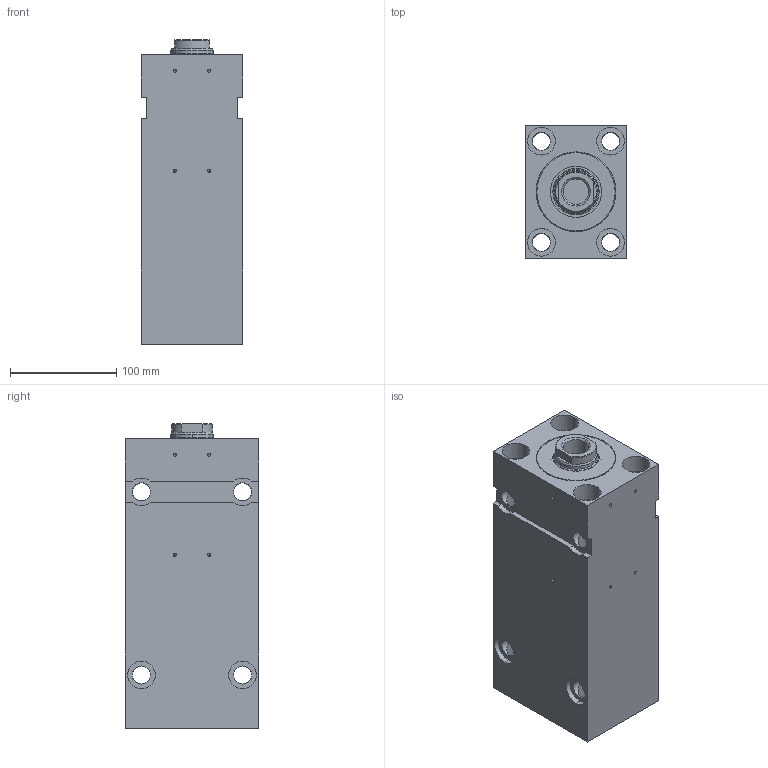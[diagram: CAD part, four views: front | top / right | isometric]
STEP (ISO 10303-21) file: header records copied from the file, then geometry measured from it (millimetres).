
FILE_DESCRIPTION (( 'STEP AP203' ), '1' );
FILE_NAME ('BZ_320.63_40.78.201.160 PP.KBC50__DH_0_.STEP', '2022-05-10T10:34:55', ( '' ), ( '' ), 'SwSTEP 2.0', 'SolidWorks 2020', '' );
FILE_SCHEMA (( 'CONFIG_CONTROL_DESIGN' ));
Length unit declared in the file: millimetre
Products named in the file (7): _Dichtungssatz f. BZ_RZ_FZ.63_40.xx.201.160 Artikelnr._ 053077(0)^BZ_320.63_40.78.201.160 PP.KBC50__DH_0_(2)_BZ_320.63_40.78.201.160 PP.KBC50__DH_0_; BZ_320.63_40.78.201.160 PP.KBC50__DH_0_; _Verschraubung komplett mit Dichtung f. BZ_RZ_FZ.63_40.201, Art.-Nr._ 042987(201)^BZ_320.63_40.78.201.160 PP.KBC50__DH_0_(2)_BZ_320.63_40.78.201.160 PP.KBC50__DH_0_; _Verschraubung hinten komplett mit Dichtung f. BZ500.63_40 LLL^BZ_320.63_40.78.201.160 PP.KBC50__DH_0_(2)_BZ_320.63_40.78.201.160 PP.KBC50__DH_0_; _Gehaeuse f. BZ320.63_40.Fehler in IDBF.201.160Fehler in IDNT00(1350frei278000))10^BZ_320.63_40.78.201.160 PP.KBC50__DH_0_(2)_BZ_320.63_40.78.201.160 PP.KBC50__DH_0_; BZ_320.63_40.78.201.160 PP.KBC50__DH_0_(2)^BZ_320.63_40.78.201.160 PP.KBC50__DH_0_; _Kolbenstange komplett f. BZ_RZ_FZ.63_40.xx.201.160(0_11 1 27 3 0 0 14 40 0 0 0)0^BZ_320.63_40.78.201.160 PP.KBC50__DH_0_(2)_BZ_320.63_40.78.201.160 PP.KBC50__DH_0_
Assembly tree (6 placements, depth 3):
  BZ_320.63_40.78.201.160 PP.KBC50__DH_0_
    BZ_320.63_40.78.201.160 PP.KBC50__DH_0_(2)^BZ_320.63_40.78.201.160 PP.KBC50__DH_0_
      _Gehaeuse f. BZ320.63_40.Fehler in IDBF.201.160Fehler in IDNT00(1350frei278000))10^BZ_320.63_40.78.201.160 PP.KBC50__DH_0_(2)_BZ_320.63_40.78.201.160 PP.KBC50__DH_0_
      _Verschraubung hinten komplett mit Dichtung f. BZ500.63_40 LLL^BZ_320.63_40.78.201.160 PP.KBC50__DH_0_(2)_BZ_320.63_40.78.201.160 PP.KBC50__DH_0_
      _Verschraubung komplett mit Dichtung f. BZ_RZ_FZ.63_40.201, Art.-Nr._ 042987(201)^BZ_320.63_40.78.201.160 PP.KBC50__DH_0_(2)_BZ_320.63_40.78.201.160 PP.KBC50__DH_0_
      _Dichtungssatz f. BZ_RZ_FZ.63_40.xx.201.160 Artikelnr._ 053077(0)^BZ_320.63_40.78.201.160 PP.KBC50__DH_0_(2)_BZ_320.63_40.78.201.160 PP.KBC50__DH_0_
      _Kolbenstange komplett f. BZ_RZ_FZ.63_40.xx.201.160(0_11 1 27 3 0 0 14 40 0 0 0)0^BZ_320.63_40.78.201.160 PP.KBC50__DH_0_(2)_BZ_320.63_40.78.201.160 PP.KBC50__DH_0_
Bounding box: 95 x 125 x 286 mm (x, y, z)
Volume: 2537844.7 mm3; surface area: 350787.8 mm2
Topology: 5 solids, 5 shells, 245 faces, 597 edges, 356 vertices
Faces by surface type: cylinder 150, plane 57, cone 38
Entity records: 8052 total; most frequent: CARTESIAN_POINT 1624, DIRECTION 1259, ORIENTED_EDGE 1146, EDGE_CURVE 573, AXIS2_PLACEMENT_3D 503, VERTEX_POINT 356, EDGE_LOOP 305, VECTOR 253
